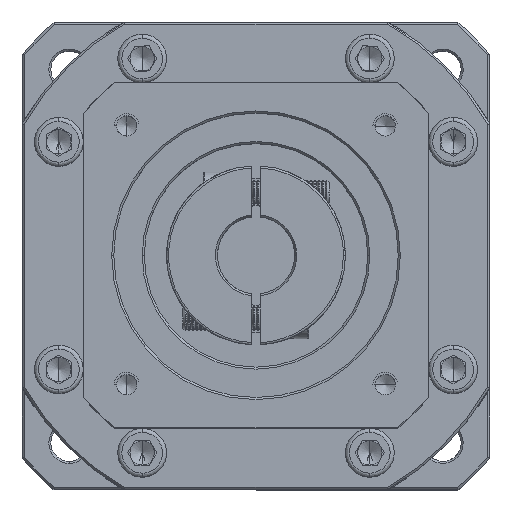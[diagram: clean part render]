
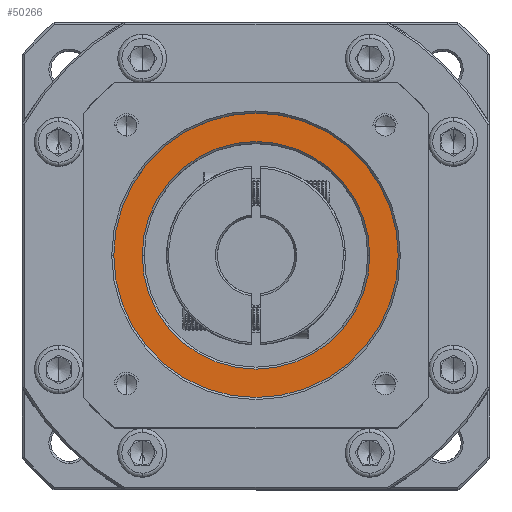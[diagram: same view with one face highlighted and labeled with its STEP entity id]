
A CAD part, top view. The second image highlights one B-rep face of the part: STEP entity #50266.
In plain terms, the highlighted planar face has unit normal (0, 0, 1).
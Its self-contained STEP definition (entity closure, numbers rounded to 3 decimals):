
#257 = CIRCLE ( 'NONE', #50533, 35. ) ;
#5931 = DIRECTION ( 'NONE',  ( 0., 0., 1. ) ) ;
#10081 = AXIS2_PLACEMENT_3D ( 'NONE', #104137, #48540, #113433 ) ;
#15424 = ORIENTED_EDGE ( 'NONE', *, *, #104539, .T. ) ;
#20355 = FACE_OUTER_BOUND ( 'NONE', #62742, .T. ) ;
#26140 = EDGE_LOOP ( 'NONE', ( #101854, #38838 ) ) ;
#26754 = CIRCLE ( 'NONE', #10081, 28. ) ;
#32022 = AXIS2_PLACEMENT_3D ( 'NONE', #43102, #108105, #52482 ) ;
#38613 = DIRECTION ( 'NONE',  ( 0., 0., 1. ) ) ;
#38838 = ORIENTED_EDGE ( 'NONE', *, *, #109323, .T. ) ;
#42173 = FACE_BOUND ( 'NONE', #26140, .T. ) ;
#43102 = CARTESIAN_POINT ( 'NONE',  ( -77.267, 37.701, -1.595 ) ) ;
#43506 = CARTESIAN_POINT ( 'NONE',  ( -77.267, 37.701, -1.595 ) ) ;
#47935 = VERTEX_POINT ( 'NONE', #59538 ) ;
#48540 = DIRECTION ( 'NONE',  ( 0., 0., -1. ) ) ;
#50266 = ADVANCED_FACE ( 'NONE', ( #20355, #42173 ), #103175, .T. ) ;
#50533 = AXIS2_PLACEMENT_3D ( 'NONE', #43506, #108511, #52885 ) ;
#52482 = DIRECTION ( 'NONE',  ( 1., 0., 0. ) ) ;
#52885 = DIRECTION ( 'NONE',  ( 1., 0., 0. ) ) ;
#58707 = ORIENTED_EDGE ( 'NONE', *, *, #86001, .T. ) ;
#59538 = CARTESIAN_POINT ( 'NONE',  ( -105.267, 37.701, -1.595 ) ) ;
#61603 = CARTESIAN_POINT ( 'NONE',  ( -77.267, 37.701, -1.595 ) ) ;
#62742 = EDGE_LOOP ( 'NONE', ( #15424, #58707 ) ) ;
#68240 = CARTESIAN_POINT ( 'NONE',  ( -42.267, 37.701, -1.595 ) ) ;
#70935 = DIRECTION ( 'NONE',  ( 1., 0., 0. ) ) ;
#71970 = CIRCLE ( 'NONE', #32022, 28. ) ;
#75021 = VERTEX_POINT ( 'NONE', #80668 ) ;
#80668 = CARTESIAN_POINT ( 'NONE',  ( -49.267, 37.701, -1.595 ) ) ;
#86001 = EDGE_CURVE ( 'NONE', #98156, #117536, #257, .T. ) ;
#94171 = CARTESIAN_POINT ( 'NONE',  ( -77.267, 37.701, -1.595 ) ) ;
#98156 = VERTEX_POINT ( 'NONE', #107342 ) ;
#101854 = ORIENTED_EDGE ( 'NONE', *, *, #110095, .T. ) ;
#103175 = PLANE ( 'NONE',  #111591 ) ;
#103579 = DIRECTION ( 'NONE',  ( 1., 0., 0. ) ) ;
#104137 = CARTESIAN_POINT ( 'NONE',  ( -77.267, 37.701, -1.595 ) ) ;
#104406 = AXIS2_PLACEMENT_3D ( 'NONE', #61603, #5931, #70935 ) ;
#104539 = EDGE_CURVE ( 'NONE', #117536, #98156, #114019, .T. ) ;
#107342 = CARTESIAN_POINT ( 'NONE',  ( -112.267, 37.701, -1.595 ) ) ;
#108105 = DIRECTION ( 'NONE',  ( 0., 0., -1. ) ) ;
#108511 = DIRECTION ( 'NONE',  ( 0., 0., 1. ) ) ;
#109323 = EDGE_CURVE ( 'NONE', #47935, #75021, #26754, .T. ) ;
#110095 = EDGE_CURVE ( 'NONE', #75021, #47935, #71970, .T. ) ;
#111591 = AXIS2_PLACEMENT_3D ( 'NONE', #94171, #38613, #103579 ) ;
#113433 = DIRECTION ( 'NONE',  ( 1., 0., 0. ) ) ;
#114019 = CIRCLE ( 'NONE', #104406, 35. ) ;
#117536 = VERTEX_POINT ( 'NONE', #68240 ) ;
